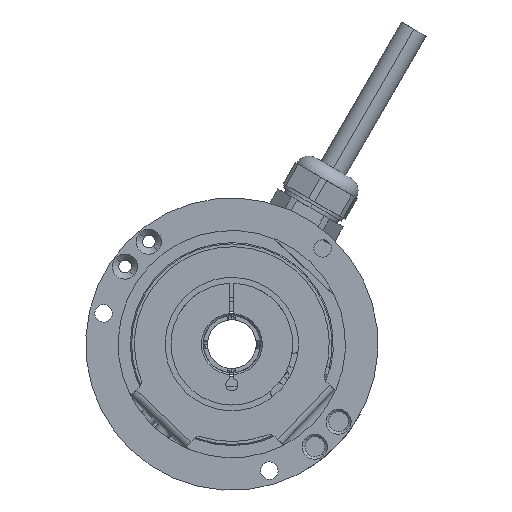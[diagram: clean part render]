
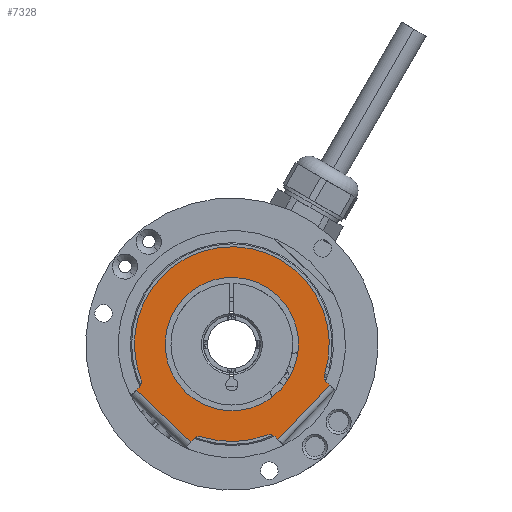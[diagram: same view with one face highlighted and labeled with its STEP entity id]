
A CAD part, left-side view. The second image highlights one B-rep face of the part: STEP entity #7328.
In plain terms, the highlighted planar face has unit normal (-1, 0, 0).
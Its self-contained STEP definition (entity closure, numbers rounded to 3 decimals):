
#217 = DIRECTION ( 'NONE',  ( 0., -0.725, -0.688 ) ) ;
#218 = VECTOR ( 'NONE', #217, 1000. ) ;
#219 = CARTESIAN_POINT ( 'NONE',  ( -2.2, -9.697, -21.954 ) ) ;
#221 = LINE ( 'NONE', #219, #218 ) ;
#222 = DIRECTION ( 'NONE',  ( 0., 0.725, 0.688 ) ) ;
#223 = VECTOR ( 'NONE', #222, 1000. ) ;
#224 = CARTESIAN_POINT ( 'NONE',  ( -2.2, -22.431, -8.534 ) ) ;
#225 = LINE ( 'NONE', #224, #223 ) ;
#247 = AXIS2_PLACEMENT_3D ( 'NONE', #263, #262, #261 ) ;
#248 = CIRCLE ( 'NONE', #247, 24. ) ;
#251 = VECTOR ( 'NONE', #257, 1000. ) ;
#252 = CARTESIAN_POINT ( 'NONE',  ( -2.2, 8.534, -22.431 ) ) ;
#253 = LINE ( 'NONE', #252, #251 ) ;
#257 = DIRECTION ( 'NONE',  ( 0., -0.688, 0.725 ) ) ;
#261 = DIRECTION ( 'NONE',  ( 0., -0.725, -0.688 ) ) ;
#262 = DIRECTION ( 'NONE',  ( -1., 0., 0. ) ) ;
#263 = CARTESIAN_POINT ( 'NONE',  ( -2.2, 0., 0. ) ) ;
#277 = FACE_BOUND ( 'NONE', #7309, .T. ) ;
#301 = DIRECTION ( 'NONE',  ( 0., -0.725, -0.688 ) ) ;
#302 = DIRECTION ( 'NONE',  ( -1., 0., 0. ) ) ;
#303 = CARTESIAN_POINT ( 'NONE',  ( -2.2, 0., 0. ) ) ;
#304 = AXIS2_PLACEMENT_3D ( 'NONE', #303, #302, #301 ) ;
#305 = CIRCLE ( 'NONE', #304, 24. ) ;
#307 = CARTESIAN_POINT ( 'NONE',  ( -2.2, -22.843, -7.361 ) ) ;
#335 = FACE_OUTER_BOUND ( 'NONE', #7345, .T. ) ;
#366 = CARTESIAN_POINT ( 'NONE',  ( -2.2, -23.37, -9.425 ) ) ;
#392 = DIRECTION ( 'NONE',  ( 0., -0.725, -0.688 ) ) ;
#393 = DIRECTION ( 'NONE',  ( -1., 0., 0. ) ) ;
#394 = CARTESIAN_POINT ( 'NONE',  ( -2.2, 0., 0. ) ) ;
#395 = AXIS2_PLACEMENT_3D ( 'NONE', #394, #393, #392 ) ;
#396 = PLANE ( 'NONE',  #395 ) ;
#430 = DIRECTION ( 'NONE',  ( 0., -0.725, -0.688 ) ) ;
#431 = DIRECTION ( 'NONE',  ( 1., 0., 0. ) ) ;
#432 = CARTESIAN_POINT ( 'NONE',  ( -2.2, -24.747, -7.975 ) ) ;
#433 = AXIS2_PLACEMENT_3D ( 'NONE', #432, #431, #430 ) ;
#434 = CIRCLE ( 'NONE', #433, 2. ) ;
#4284 = CARTESIAN_POINT ( 'NONE',  ( -2.2, 7.361, -22.843 ) ) ;
#4285 = DIRECTION ( 'NONE',  ( 0., -0.725, -0.688 ) ) ;
#4286 = CARTESIAN_POINT ( 'NONE',  ( -2.2, 7.975, -24.747 ) ) ;
#4287 = AXIS2_PLACEMENT_3D ( 'NONE', #4286, #4291, #4285 ) ;
#4291 = DIRECTION ( 'NONE',  ( 1., 0., 0. ) ) ;
#4299 = CIRCLE ( 'NONE', #4287, 2. ) ;
#5371 = CIRCLE ( 'NONE', #5380, 2. ) ;
#5376 = DIRECTION ( 'NONE',  ( 0., -0.725, -0.688 ) ) ;
#5377 = DIRECTION ( 'NONE',  ( 1., 0., 0. ) ) ;
#5379 = CARTESIAN_POINT ( 'NONE',  ( -2.2, 24.296, -9.259 ) ) ;
#5380 = AXIS2_PLACEMENT_3D ( 'NONE', #5379, #5377, #5376 ) ;
#5383 = CARTESIAN_POINT ( 'NONE',  ( -2.2, 22.845, -10.636 ) ) ;
#5793 = CARTESIAN_POINT ( 'NONE',  ( -2.2, -11.914, -11.306 ) ) ;
#5795 = CARTESIAN_POINT ( 'NONE',  ( -2.2, -24.066, -10.086 ) ) ;
#5830 = DIRECTION ( 'NONE',  ( 0., -0.688, 0.725 ) ) ;
#5832 = VECTOR ( 'NONE', #5830, 1000. ) ;
#5834 = CARTESIAN_POINT ( 'NONE',  ( -2.2, -24.066, -10.086 ) ) ;
#5836 = LINE ( 'NONE', #5834, #5832 ) ;
#5839 = DIRECTION ( 'NONE',  ( 0., -0.725, -0.688 ) ) ;
#5840 = DIRECTION ( 'NONE',  ( -1., 0., 0. ) ) ;
#5841 = CARTESIAN_POINT ( 'NONE',  ( -2.2, 0., 0. ) ) ;
#5843 = AXIS2_PLACEMENT_3D ( 'NONE', #5841, #5840, #5839 ) ;
#5845 = CIRCLE ( 'NONE', #5843, 16.425 ) ;
#6653 = LINE ( 'NONE', #6681, #6671 ) ;
#6671 = VECTOR ( 'NONE', #6693, 1000. ) ;
#6681 = CARTESIAN_POINT ( 'NONE',  ( -2.2, 21.954, -9.697 ) ) ;
#6693 = DIRECTION ( 'NONE',  ( 0., 0.688, -0.725 ) ) ;
#6777 = EDGE_CURVE ( 'NONE', #6793, #6794, #15984, .T. ) ;
#6793 = VERTEX_POINT ( 'NONE', #16077 ) ;
#6794 = VERTEX_POINT ( 'NONE', #16076 ) ;
#6940 = VERTEX_POINT ( 'NONE', #16477 ) ;
#6944 = VERTEX_POINT ( 'NONE', #16484 ) ;
#6945 = EDGE_CURVE ( 'NONE', #6975, #6944, #16495, .T. ) ;
#6963 = VERTEX_POINT ( 'NONE', #16578 ) ;
#6975 = VERTEX_POINT ( 'NONE', #16652 ) ;
#6978 = EDGE_CURVE ( 'NONE', #6979, #7138, #16650, .T. ) ;
#6979 = VERTEX_POINT ( 'NONE', #16726 ) ;
#7003 = VERTEX_POINT ( 'NONE', #16699 ) ;
#7005 = EDGE_CURVE ( 'NONE', #7003, #7006, #16622, .T. ) ;
#7006 = VERTEX_POINT ( 'NONE', #16617 ) ;
#7042 = EDGE_CURVE ( 'NONE', #6940, #7043, #4299, .T. ) ;
#7043 = VERTEX_POINT ( 'NONE', #4284 ) ;
#7053 = EDGE_CURVE ( 'NONE', #6944, #6940, #253, .T. ) ;
#7056 = EDGE_CURVE ( 'NONE', #7043, #7003, #248, .T. ) ;
#7066 = EDGE_CURVE ( 'NONE', #7102, #6975, #6653, .T. ) ;
#7100 = EDGE_CURVE ( 'NONE', #6794, #7102, #5371, .T. ) ;
#7102 = VERTEX_POINT ( 'NONE', #5383 ) ;
#7137 = VERTEX_POINT ( 'NONE', #5795 ) ;
#7138 = VERTEX_POINT ( 'NONE', #5793 ) ;
#7166 = EDGE_CURVE ( 'NONE', #7138, #6979, #5845, .T. ) ;
#7168 = EDGE_CURVE ( 'NONE', #6963, #7137, #5836, .T. ) ;
#7295 = EDGE_CURVE ( 'NONE', #7137, #7376, #225, .T. ) ;
#7297 = ORIENTED_EDGE ( 'NONE', *, *, #7056, .T. ) ;
#7299 = ORIENTED_EDGE ( 'NONE', *, *, #7005, .T. ) ;
#7301 = ORIENTED_EDGE ( 'NONE', *, *, #7304, .T. ) ;
#7304 = EDGE_CURVE ( 'NONE', #7006, #6963, #221, .T. ) ;
#7306 = ORIENTED_EDGE ( 'NONE', *, *, #7168, .T. ) ;
#7307 = ORIENTED_EDGE ( 'NONE', *, *, #7295, .T. ) ;
#7308 = ORIENTED_EDGE ( 'NONE', *, *, #7331, .T. ) ;
#7309 = EDGE_LOOP ( 'NONE', ( #7310, #7311 ) ) ;
#7310 = ORIENTED_EDGE ( 'NONE', *, *, #6978, .F. ) ;
#7311 = ORIENTED_EDGE ( 'NONE', *, *, #7166, .F. ) ;
#7328 = ADVANCED_FACE ( 'NONE', ( #335, #277 ), #396, .T. ) ;
#7331 = EDGE_CURVE ( 'NONE', #7376, #7388, #434, .T. ) ;
#7345 = EDGE_LOOP ( 'NONE', ( #7346, #7348, #7350, #7351, #7352, #7386, #7387, #7297, #7299, #7301, #7306, #7307, #7308 ) ) ;
#7346 = ORIENTED_EDGE ( 'NONE', *, *, #7395, .T. ) ;
#7348 = ORIENTED_EDGE ( 'NONE', *, *, #6777, .T. ) ;
#7350 = ORIENTED_EDGE ( 'NONE', *, *, #7100, .T. ) ;
#7351 = ORIENTED_EDGE ( 'NONE', *, *, #7066, .T. ) ;
#7352 = ORIENTED_EDGE ( 'NONE', *, *, #6945, .T. ) ;
#7376 = VERTEX_POINT ( 'NONE', #366 ) ;
#7386 = ORIENTED_EDGE ( 'NONE', *, *, #7053, .T. ) ;
#7387 = ORIENTED_EDGE ( 'NONE', *, *, #7042, .T. ) ;
#7388 = VERTEX_POINT ( 'NONE', #307 ) ;
#7395 = EDGE_CURVE ( 'NONE', #7388, #6793, #305, .T. ) ;
#15981 = DIRECTION ( 'NONE',  ( 0., -0.725, -0.688 ) ) ;
#15982 = DIRECTION ( 'NONE',  ( -1., 0., 0. ) ) ;
#15983 = AXIS2_PLACEMENT_3D ( 'NONE', #15990, #15982, #15981 ) ;
#15984 = CIRCLE ( 'NONE', #15983, 24. ) ;
#15990 = CARTESIAN_POINT ( 'NONE',  ( -2.2, 0., 0. ) ) ;
#16076 = CARTESIAN_POINT ( 'NONE',  ( -2.2, 22.427, -8.547 ) ) ;
#16077 = CARTESIAN_POINT ( 'NONE',  ( -2.2, 17.409, 16.521 ) ) ;
#16477 = CARTESIAN_POINT ( 'NONE',  ( -2.2, 9.425, -23.37 ) ) ;
#16484 = CARTESIAN_POINT ( 'NONE',  ( -2.2, 10.086, -24.066 ) ) ;
#16492 = DIRECTION ( 'NONE',  ( 0., -0.725, -0.688 ) ) ;
#16493 = VECTOR ( 'NONE', #16492, 1000. ) ;
#16494 = CARTESIAN_POINT ( 'NONE',  ( -2.2, 16.796, -17.699 ) ) ;
#16495 = LINE ( 'NONE', #16494, #16493 ) ;
#16578 = CARTESIAN_POINT ( 'NONE',  ( -2.2, -11.332, -23.506 ) ) ;
#16617 = CARTESIAN_POINT ( 'NONE',  ( -2.2, -10.636, -22.845 ) ) ;
#16618 = DIRECTION ( 'NONE',  ( 0., -0.725, -0.688 ) ) ;
#16619 = DIRECTION ( 'NONE',  ( 1., 0., 0. ) ) ;
#16620 = CARTESIAN_POINT ( 'NONE',  ( -2.2, -9.259, -24.296 ) ) ;
#16621 = AXIS2_PLACEMENT_3D ( 'NONE', #16620, #16619, #16618 ) ;
#16622 = CIRCLE ( 'NONE', #16621, 2. ) ;
#16650 = CIRCLE ( 'NONE', #16730, 16.425 ) ;
#16652 = CARTESIAN_POINT ( 'NONE',  ( -2.2, 23.506, -11.332 ) ) ;
#16699 = CARTESIAN_POINT ( 'NONE',  ( -2.2, -8.547, -22.427 ) ) ;
#16726 = CARTESIAN_POINT ( 'NONE',  ( -2.2, 11.914, 11.306 ) ) ;
#16727 = DIRECTION ( 'NONE',  ( 0., -0.725, -0.688 ) ) ;
#16728 = DIRECTION ( 'NONE',  ( -1., 0., 0. ) ) ;
#16729 = CARTESIAN_POINT ( 'NONE',  ( -2.2, 0., 0. ) ) ;
#16730 = AXIS2_PLACEMENT_3D ( 'NONE', #16729, #16728, #16727 ) ;
